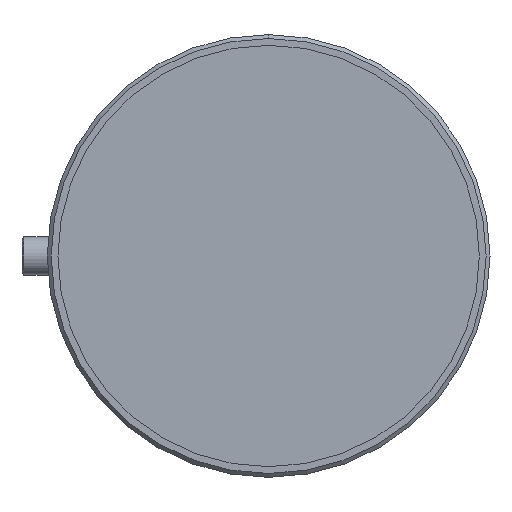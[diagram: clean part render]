
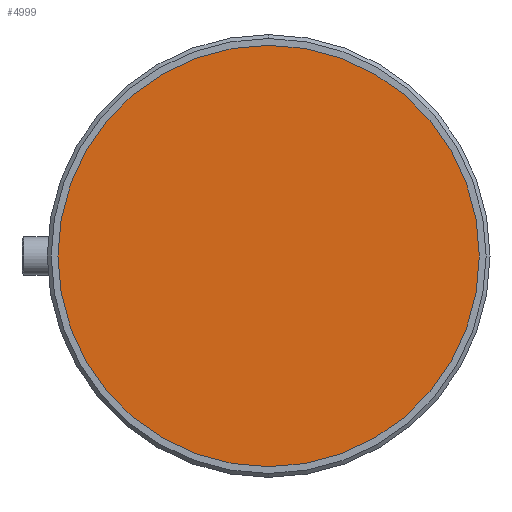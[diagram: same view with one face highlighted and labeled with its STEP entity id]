
A CAD part, left-side view. The second image highlights one B-rep face of the part: STEP entity #4999.
In plain terms, the highlighted planar face has unit normal (-1, 0, 0).
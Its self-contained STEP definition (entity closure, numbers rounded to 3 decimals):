
#103 = CARTESIAN_POINT ( 'NONE',  ( 3., 0., 0. ) ) ;
#241 = CARTESIAN_POINT ( 'NONE',  ( 3., 0., 27.5 ) ) ;
#248 = AXIS2_PLACEMENT_3D ( 'NONE', #380, #3474, #834 ) ;
#380 = CARTESIAN_POINT ( 'NONE',  ( 3., 0., 0. ) ) ;
#539 = VERTEX_POINT ( 'NONE', #241 ) ;
#551 = DIRECTION ( 'NONE',  ( 0., 0., -1. ) ) ;
#643 = CIRCLE ( 'NONE', #2543, 27.5 ) ;
#765 = DIRECTION ( 'NONE',  ( 1., 0., 0. ) ) ;
#834 = DIRECTION ( 'NONE',  ( 0., 0., -1. ) ) ;
#860 = ORIENTED_EDGE ( 'NONE', *, *, #2007, .F. ) ;
#1726 = VERTEX_POINT ( 'NONE', #5139 ) ;
#2007 = EDGE_CURVE ( 'NONE', #539, #1726, #5316, .T. ) ;
#2325 = FACE_OUTER_BOUND ( 'NONE', #3687, .T. ) ;
#2543 = AXIS2_PLACEMENT_3D ( 'NONE', #103, #3194, #551 ) ;
#3194 = DIRECTION ( 'NONE',  ( 1., 0., 0. ) ) ;
#3400 = CARTESIAN_POINT ( 'NONE',  ( 3., 27.5, 0. ) ) ;
#3474 = DIRECTION ( 'NONE',  ( 1., 0., 0. ) ) ;
#3687 = EDGE_LOOP ( 'NONE', ( #3767, #860 ) ) ;
#3701 = EDGE_CURVE ( 'NONE', #1726, #539, #643, .T. ) ;
#3767 = ORIENTED_EDGE ( 'NONE', *, *, #3701, .F. ) ;
#3851 = DIRECTION ( 'NONE',  ( 0., 0., -1. ) ) ;
#4705 = PLANE ( 'NONE',  #5409 ) ;
#4999 = ADVANCED_FACE ( 'NONE', ( #2325 ), #4705, .F. ) ;
#5139 = CARTESIAN_POINT ( 'NONE',  ( 3., 0., -27.5 ) ) ;
#5316 = CIRCLE ( 'NONE', #248, 27.5 ) ;
#5409 = AXIS2_PLACEMENT_3D ( 'NONE', #3400, #765, #3851 ) ;
